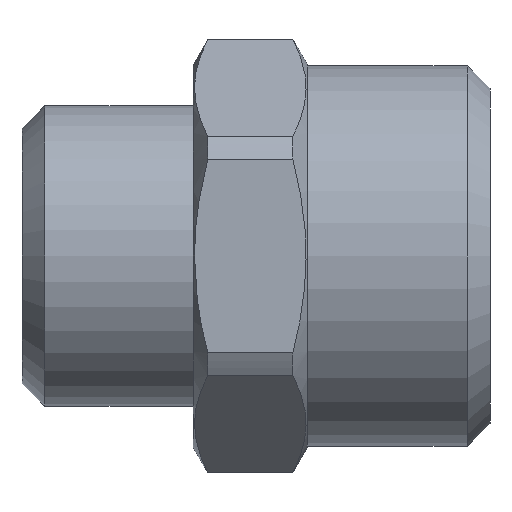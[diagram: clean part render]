
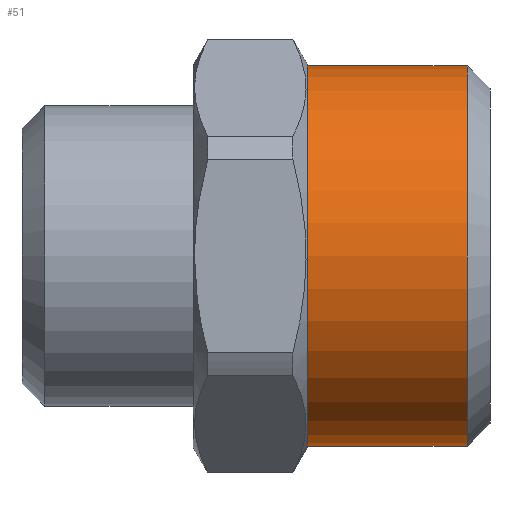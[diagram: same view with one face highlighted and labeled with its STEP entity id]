
A CAD part, left-side view. The second image highlights one B-rep face of the part: STEP entity #51.
In plain terms, the highlighted cylindrical face has radius 8.331 mm (diameter 16.662 mm), a full revolution.
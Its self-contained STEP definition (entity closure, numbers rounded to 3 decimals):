
#51=ADVANCED_FACE('',(#135,#137),#139,.T.);
#135=FACE_OUTER_BOUND('',#136,.T.);
#136=EDGE_LOOP('',(#314));
#137=FACE_OUTER_BOUND('',#138,.T.);
#138=EDGE_LOOP('',(#315));
#139=CYLINDRICAL_SURFACE('',#140,8.331);
#140=AXIS2_PLACEMENT_3D('',#141,#142,#143);
#141=CARTESIAN_POINT('',(0.,-2.5,0.));
#142=DIRECTION('',(0.,-1.,0.));
#143=DIRECTION('',(1.,0.,0.));
#314=ORIENTED_EDGE('',*,*,#417,.T.);
#315=ORIENTED_EDGE('',*,*,#415,.F.);
#415=EDGE_CURVE('',#477,#477,#478,.T.);
#417=EDGE_CURVE('',#481,#481,#482,.T.);
#477=VERTEX_POINT('',#598);
#478=CIRCLE('',#599,8.331);
#481=VERTEX_POINT('',#608);
#482=CIRCLE('',#609,8.331);
#598=CARTESIAN_POINT('',(8.331,-9.5,0.));
#599=AXIS2_PLACEMENT_3D('',#600,#601,#602);
#600=CARTESIAN_POINT('',(0.,-9.5,0.));
#601=DIRECTION('',(0.,-1.,0.));
#602=DIRECTION('',(1.,0.,0.));
#608=CARTESIAN_POINT('',(8.331,-2.5,0.));
#609=AXIS2_PLACEMENT_3D('',#610,#611,#612);
#610=CARTESIAN_POINT('',(0.,-2.5,0.));
#611=DIRECTION('',(0.,-1.,0.));
#612=DIRECTION('',(1.,0.,0.));
